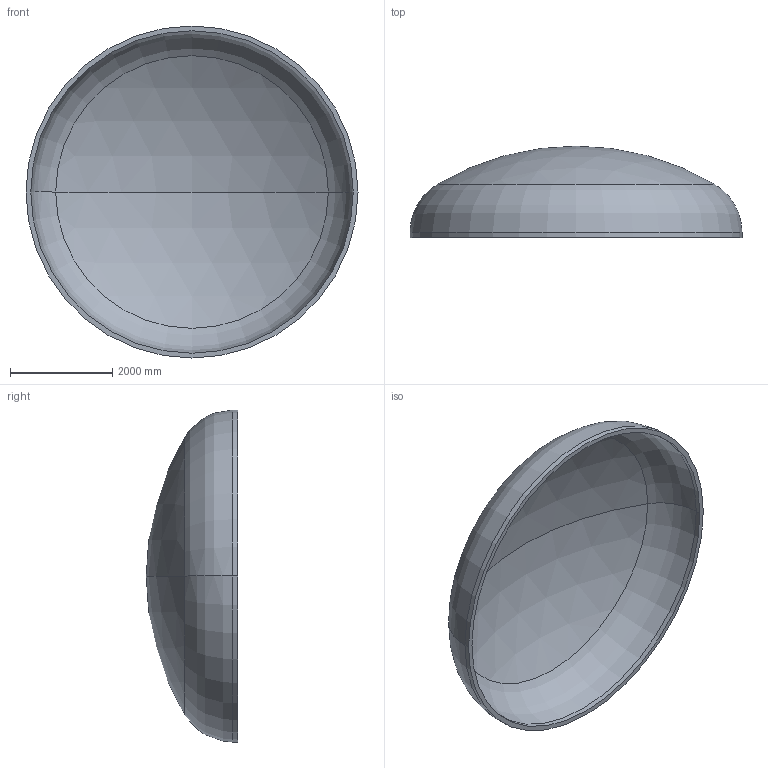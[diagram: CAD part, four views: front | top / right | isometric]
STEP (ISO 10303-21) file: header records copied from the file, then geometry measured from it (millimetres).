
FILE_DESCRIPTION (( 'STEP AP203' ), '1' );
FILE_NAME ('DIN 28013 Korbbogenform_-_Boden DIN 28013 - 6500 x 100 - I - s=94.step', '2016-07-04T10:43:48', ( '' ), ( '' ), 'SwSTEP 2.0', 'SolidWorks 2013', '' );
FILE_SCHEMA (( 'CONFIG_CONTROL_DESIGN' ));
Length unit declared in the file: millimetre
Products named in the file (1): DIN 28013 Korbbogenform_-_Boden DIN 28013 - 6500 x 100 - I - s=94
Bounding box: 6500 x 1789.6 x 6500 mm (x, y, z)
Volume: 4426657333.9 mm3; surface area: 96094423.1 mm2
Topology: 1 solids, 1 shells, 13 faces, 24 edges, 14 vertices
Faces by surface type: torus 4, cylinder 4, sphere 4, plane 1
Entity records: 407 total; most frequent: DIRECTION 72, CARTESIAN_POINT 52, ORIENTED_EDGE 48, AXIS2_PLACEMENT_3D 34, EDGE_CURVE 24, CIRCLE 20, EDGE_LOOP 14, VERTEX_POINT 14
